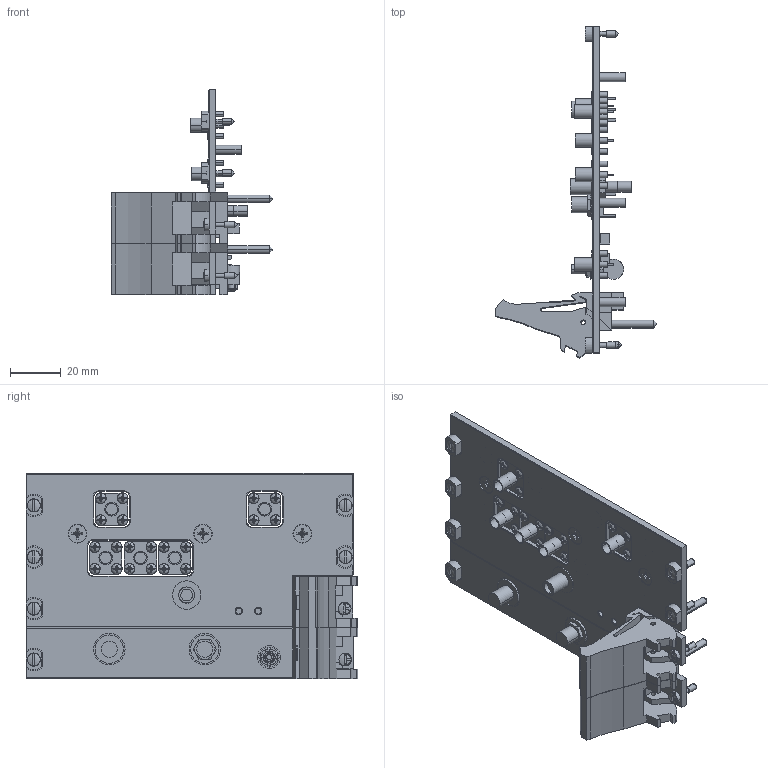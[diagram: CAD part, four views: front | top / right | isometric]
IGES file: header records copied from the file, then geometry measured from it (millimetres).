
Start section:  PTC IGES file: cd_pxi-5660.igs
Global section: file name: cd_pxi-5660.igs; native system: Pro/ENGINEER by Parametric Technology Corporation; preprocessor: 2006080; author: jjorden; organization: Unknown; date: 091230.123547; units: inch
Bounding box: 63.53 x 130.51 x 80.67 mm (x, y, z)
Surface area: 40067.5 mm2 (no closed solid volume)
Topology: 0 solids, 0 shells, 2221 faces, 10956 edges, 10476 vertices
Faces by surface type: bspline 1584, revolution 637
